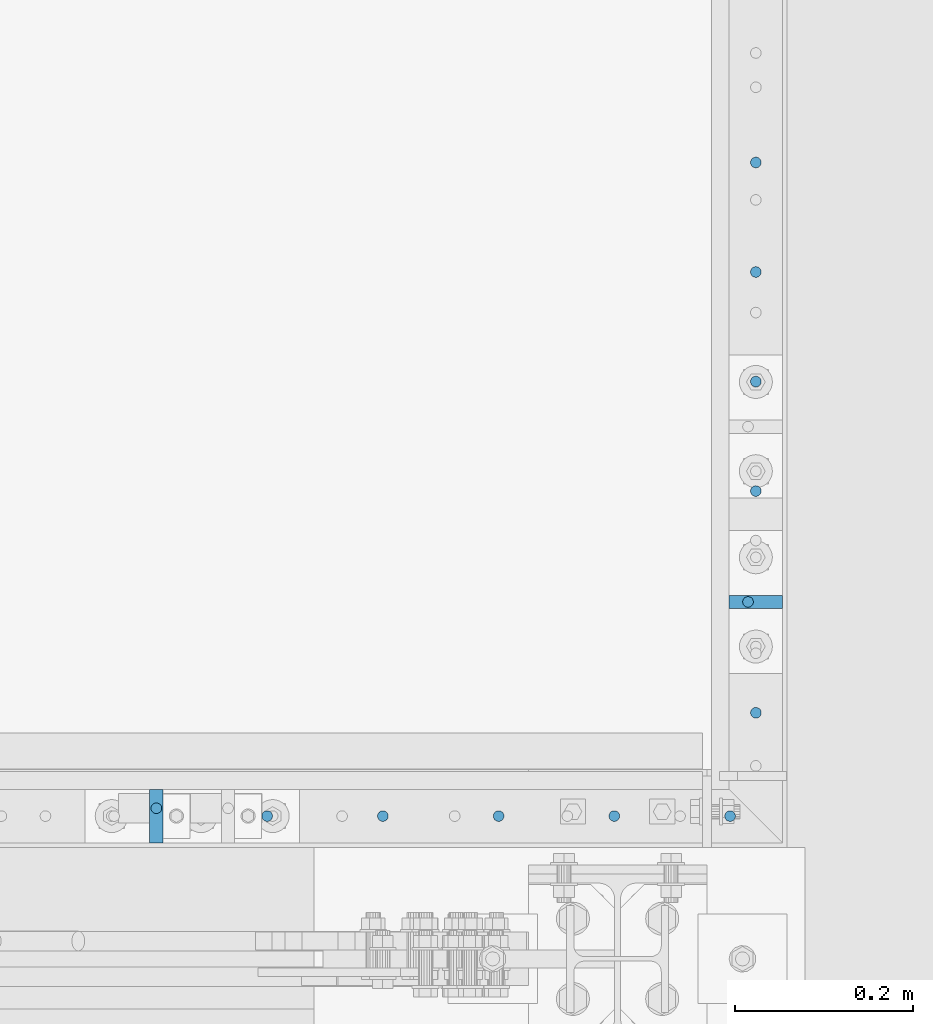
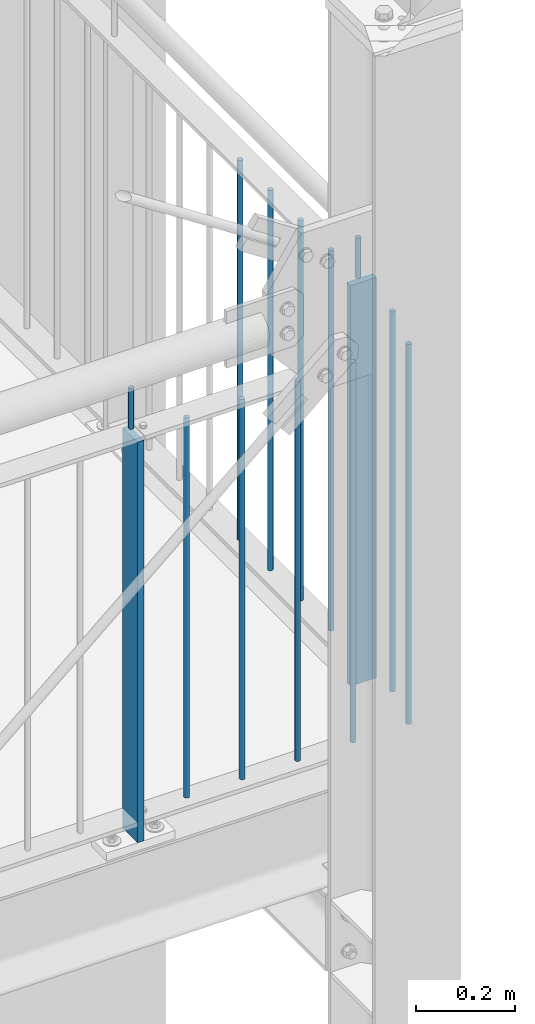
# One storey, part 87 of 825: 14 columns.
"""IFC2X3 building model written with IfcOpenShell, lengths in millimetres."""

from ifc_helpers import new_model, entity, si_unit, converted_unit, frame, origin, origin_with_axes, origin_2d, place, context, project, spatial, rectangle, circle, extrude, clip, halfspace, material, element, save


model = new_model("IFC2X3")

# Units and contexts
model_context = context("Model", 3, precision=1e-09, world=origin_with_axes())
ifc_project = project(units=[si_unit("LENGTHUNIT", "METRE", prefix="MILLI"), si_unit("AREAUNIT", "SQUARE_METRE"), si_unit("VOLUMEUNIT", "CUBIC_METRE"), converted_unit("PLANEANGLEUNIT", "DEGREE", entity("IfcPlaneAngleMeasure", 0.01745329), si_unit("PLANEANGLEUNIT", "RADIAN"), dimensions=[0, 0, 0, 0, 0, 0, 0])], contexts=[model_context])

# Site, building, storey
site_placement = place(None, origin_with_axes())
site = spatial("IfcSite", under=ifc_project, at=site_placement, Name="Cnopf'sche Kinderklinik", CompositionType="ELEMENT")
building_placement = place(site_placement, origin_with_axes())
building = spatial("IfcBuilding", under=site, at=building_placement, Name="Struktur 1", CompositionType="ELEMENT")
storey_placement = place(building_placement, origin_with_axes())
storey = spatial("IfcBuildingStorey", under=building, at=storey_placement, Name="Default Storey", CompositionType="ELEMENT", Elevation=0.0)

# Columns
ifc_material = material(Name="S235JR")
column_1_placement = place(None, frame((9021.713402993, 4766.735971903, 6714.618028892), z_axis=(0.0, 0.0, 1.0), x_axis=(0.0, -1.0, 0.0)))
element("IfcColumn", 1, at=column_1_placement, inside=storey, material=ifc_material, Name="Railing_Post_Landing#7", ObjectType="Railing_Post_Landing#7", context=model_context, shape_type="Clipping", body=[
    clip(clip(extrude(rectangle(XDim=15.0, YDim=60.0, at=origin_2d()), origin(), (0.0, 0.0, -1.0), 1070.646584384), halfspace(frame((4766.735971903, -9021.713402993, -1019.722292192), z_axis=(0.0, 0.0, 1.0), x_axis=(0.0, 1.0, 0.0)), True)), halfspace(frame((4766.735971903, -9021.713402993, -30.924292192), z_axis=(0.0, 0.0, -1.0), x_axis=(0.0, -1.0, 0.0)), True)),
])
column_2_placement = place(None, frame((8349.792260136, 4526.736971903, 6714.618028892), z_axis=(0.0, 0.0, 1.0), x_axis=(-1.0, 0.0, 0.0)))
element("IfcColumn", 2, at=column_2_placement, inside=storey, material=ifc_material, Name="Railing_Post_Landing#8", ObjectType="Railing_Post_Landing#8", context=model_context, shape_type="Clipping", body=[
    clip(clip(extrude(rectangle(XDim=15.0, YDim=60.0, at=origin_2d()), origin(), (0.0, 0.0, -1.0), 1070.646584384), halfspace(frame((8349.792260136, 4526.736971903, -1019.722292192), z_axis=(0.0, 0.0, 1.0), x_axis=(-1.0, 0.0, 0.0)), True)), halfspace(frame((8349.792260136, 4526.736971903, -30.924292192), z_axis=(0.0, 0.0, -1.0), x_axis=(1.0, 0.0, 0.0)), True)),
])
column_3_placement = place(None, frame((9021.713402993, 5259.236043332, 6697.180018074), z_axis=(0.0, 0.0, 1.0), x_axis=(0.0, -1.0, 0.0)))
element("IfcColumn", 3, at=column_3_placement, inside=storey, material=ifc_material, Name="Railing_Picket_Landing#45", ObjectType="Railing_Picket_Landing#45", context=model_context, shape_type="Clipping", body=[
    clip(clip(extrude(circle(Radius=6.0, at=origin_2d()), origin(), (0.0, 0.0, -1.0), 965.770562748), halfspace(frame((5259.236043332, -9021.713402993, -13.486281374), z_axis=(0.0, 0.0, -1.0), x_axis=(0.0, -1.0, 0.0)), True)), halfspace(frame((5259.236043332, -9021.713402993, -952.284281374), z_axis=(0.0, 0.0, 1.0), x_axis=(0.0, 1.0, 0.0)), True)),
])
column_4_placement = place(None, frame((9021.713402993, 5136.486019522, 6697.180018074), z_axis=(0.0, 0.0, 1.0), x_axis=(0.0, -1.0, 0.0)))
element("IfcColumn", 4, at=column_4_placement, inside=storey, material=ifc_material, Name="Railing_Picket_Landing#46", ObjectType="Railing_Picket_Landing#46", context=model_context, shape_type="Clipping", body=[
    clip(clip(extrude(circle(Radius=6.0, at=origin_2d()), origin(), (0.0, 0.0, -1.0), 965.770562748), halfspace(frame((5136.486019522, -9021.713402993, -13.486281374), z_axis=(0.0, 0.0, -1.0), x_axis=(0.0, -1.0, 0.0)), True)), halfspace(frame((5136.486019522, -9021.713402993, -952.284281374), z_axis=(0.0, 0.0, 1.0), x_axis=(0.0, 1.0, 0.0)), True)),
])
column_5_placement = place(None, frame((9021.713402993, 5013.735995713, 6697.180018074), z_axis=(0.0, 0.0, 1.0), x_axis=(0.0, -1.0, 0.0)))
element("IfcColumn", 5, at=column_5_placement, inside=storey, material=ifc_material, Name="Railing_Picket_Landing#47", ObjectType="Railing_Picket_Landing#47", context=model_context, shape_type="Clipping", body=[
    clip(clip(extrude(circle(Radius=6.0, at=origin_2d()), origin(), (0.0, 0.0, -1.0), 965.770562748), halfspace(frame((5013.735995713, -9021.713402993, -13.486281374), z_axis=(0.0, 0.0, -1.0), x_axis=(0.0, -1.0, 0.0)), True)), halfspace(frame((5013.735995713, -9021.713402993, -952.284281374), z_axis=(0.0, 0.0, 1.0), x_axis=(0.0, 1.0, 0.0)), True)),
])
column_6_placement = place(None, frame((9021.713402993, 4890.985971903, 6697.180018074), z_axis=(0.0, 0.0, 1.0), x_axis=(0.0, -1.0, 0.0)))
element("IfcColumn", 6, at=column_6_placement, inside=storey, material=ifc_material, Name="Railing_Picket_Landing#48", ObjectType="Railing_Picket_Landing#48", context=model_context, shape_type="Clipping", body=[
    clip(clip(extrude(circle(Radius=6.0, at=origin_2d()), origin(), (0.0, 0.0, -1.0), 965.770562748), halfspace(frame((4890.985971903, -9021.713402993, -13.486281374), z_axis=(0.0, 0.0, -1.0), x_axis=(0.0, -1.0, 0.0)), True)), halfspace(frame((4890.985971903, -9021.713402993, -952.284281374), z_axis=(0.0, 0.0, 1.0), x_axis=(0.0, 1.0, 0.0)), True)),
])
column_7_placement = place(None, frame((9021.713402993, 4642.485971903, 6697.180018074), z_axis=(0.0, 0.0, 1.0), x_axis=(0.0, -1.0, 0.0)))
element("IfcColumn", 7, at=column_7_placement, inside=storey, material=ifc_material, Name="Railing_Picket_Landing#49", ObjectType="Railing_Picket_Landing#49", context=model_context, shape_type="Clipping", body=[
    clip(clip(extrude(circle(Radius=6.0, at=origin_2d()), origin(), (0.0, 0.0, -1.0), 965.770562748), halfspace(frame((4642.485971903, -9021.713402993, -13.486281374), z_axis=(0.0, 0.0, -1.0), x_axis=(0.0, -1.0, 0.0)), True)), halfspace(frame((4642.485971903, -9021.713402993, -952.284281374), z_axis=(0.0, 0.0, 1.0), x_axis=(0.0, 1.0, 0.0)), True)),
])
column_8_placement = place(None, frame((8992.778374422, 4526.736971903, 6697.180018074), z_axis=(0.0, 0.0, 1.0), x_axis=(-1.0, 0.0, 0.0)))
element("IfcColumn", 8, at=column_8_placement, inside=storey, material=ifc_material, Name="Railing_Picket_Landing#50", ObjectType="Railing_Picket_Landing#50", context=model_context, shape_type="Clipping", body=[
    clip(clip(extrude(circle(Radius=6.0, at=origin_2d()), origin(), (0.0, 0.0, -1.0), 965.770562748), halfspace(frame((8992.778374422, 4526.736971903, -13.486281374), z_axis=(0.0, 0.0, -1.0), x_axis=(1.0, 0.0, 0.0)), True)), halfspace(frame((8992.778374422, 4526.736971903, -952.284281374), z_axis=(0.0, 0.0, 1.0), x_axis=(-1.0, 0.0, 0.0)), True)),
])
column_9_placement = place(None, frame((8863.09434585, 4526.736971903, 6697.180018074), z_axis=(0.0, 0.0, 1.0), x_axis=(-1.0, 0.0, 0.0)))
element("IfcColumn", 9, at=column_9_placement, inside=storey, material=ifc_material, Name="Railing_Picket_Landing#51", ObjectType="Railing_Picket_Landing#51", context=model_context, shape_type="Clipping", body=[
    clip(clip(extrude(circle(Radius=6.0, at=origin_2d()), origin(), (0.0, 0.0, -1.0), 965.770562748), halfspace(frame((8863.09434585, 4526.736971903, -13.486281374), z_axis=(0.0, 0.0, -1.0), x_axis=(1.0, 0.0, 0.0)), True)), halfspace(frame((8863.09434585, 4526.736971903, -952.284281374), z_axis=(0.0, 0.0, 1.0), x_axis=(-1.0, 0.0, 0.0)), True)),
])
column_10_placement = place(None, frame((8733.410317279, 4526.736971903, 6697.180018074), z_axis=(0.0, 0.0, 1.0), x_axis=(-1.0, 0.0, 0.0)))
element("IfcColumn", 10, at=column_10_placement, inside=storey, material=ifc_material, Name="Railing_Picket_Landing#52", ObjectType="Railing_Picket_Landing#52", context=model_context, shape_type="Clipping", body=[
    clip(clip(extrude(circle(Radius=6.0, at=origin_2d()), origin(), (0.0, 0.0, -1.0), 965.770562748), halfspace(frame((8733.410317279, 4526.736971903, -13.486281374), z_axis=(0.0, 0.0, -1.0), x_axis=(1.0, 0.0, 0.0)), True)), halfspace(frame((8733.410317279, 4526.736971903, -952.284281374), z_axis=(0.0, 0.0, 1.0), x_axis=(-1.0, 0.0, 0.0)), True)),
])
column_11_placement = place(None, frame((8603.726288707, 4526.736971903, 6697.180018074), z_axis=(0.0, 0.0, 1.0), x_axis=(-1.0, 0.0, 0.0)))
element("IfcColumn", 11, at=column_11_placement, inside=storey, material=ifc_material, Name="Railing_Picket_Landing#53", ObjectType="Railing_Picket_Landing#53", context=model_context, shape_type="Clipping", body=[
    clip(clip(extrude(circle(Radius=6.0, at=origin_2d()), origin(), (0.0, 0.0, -1.0), 965.770562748), halfspace(frame((8603.726288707, 4526.736971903, -13.486281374), z_axis=(0.0, 0.0, -1.0), x_axis=(1.0, 0.0, 0.0)), True)), halfspace(frame((8603.726288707, 4526.736971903, -952.284281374), z_axis=(0.0, 0.0, 1.0), x_axis=(-1.0, 0.0, 0.0)), True)),
])
column_12_placement = place(None, frame((8474.042260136, 4526.736971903, 6697.180018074), z_axis=(0.0, 0.0, 1.0), x_axis=(-1.0, 0.0, 0.0)))
element("IfcColumn", 12, at=column_12_placement, inside=storey, material=ifc_material, Name="Railing_Picket_Landing#54", ObjectType="Railing_Picket_Landing#54", context=model_context, shape_type="Clipping", body=[
    clip(clip(extrude(circle(Radius=6.0, at=origin_2d()), origin(), (0.0, 0.0, -1.0), 965.770562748), halfspace(frame((8474.042260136, 4526.736971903, -13.486281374), z_axis=(0.0, 0.0, -1.0), x_axis=(1.0, 0.0, 0.0)), True)), halfspace(frame((8474.042260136, 4526.736971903, -952.284281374), z_axis=(0.0, 0.0, 1.0), x_axis=(-1.0, 0.0, 0.0)), True)),
])
column_13_placement = place(None, frame((9012.913402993, 4766.735971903, 6802.180018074), z_axis=(0.0, 0.0, 1.0), x_axis=(-1.0, 0.0, 0.0)))
element("IfcColumn", 13, at=column_13_placement, inside=storey, material=ifc_material, Name="Bar#7", ObjectType="Bar#7", context=model_context, shape_type="Clipping", body=[
    clip(clip(extrude(circle(Radius=6.0, at=origin_2d()), origin(), (0.0, 0.0, -1.0), 116.970562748), halfspace(frame((9012.913402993, 4766.735971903, -8.486281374), z_axis=(0.0, 0.0, -1.0), x_axis=(1.0, 0.0, 0.0)), True)), halfspace(frame((9012.913402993, 4766.735971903, -108.484281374), z_axis=(0.0, 0.0, 1.0), x_axis=(-1.0, 0.0, 0.0)), True)),
])
column_14_placement = place(None, frame((8349.792260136, 4535.536971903, 6802.180018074), z_axis=(0.0, 0.0, 1.0), x_axis=(0.0, 1.0, 0.0)))
element("IfcColumn", 14, at=column_14_placement, inside=storey, material=ifc_material, Name="Bar#8", ObjectType="Bar#8", context=model_context, shape_type="Clipping", body=[
    clip(clip(extrude(circle(Radius=6.0, at=origin_2d()), origin(), (0.0, 0.0, -1.0), 116.970562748), halfspace(frame((-4535.536971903, 8349.792260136, -8.486281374), z_axis=(0.0, 0.0, -1.0), x_axis=(0.0, 1.0, 0.0)), True)), halfspace(frame((-4535.536971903, 8349.792260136, -108.484281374), z_axis=(0.0, 0.0, 1.0), x_axis=(0.0, -1.0, 0.0)), True)),
])

save(model, "model.ifc")
